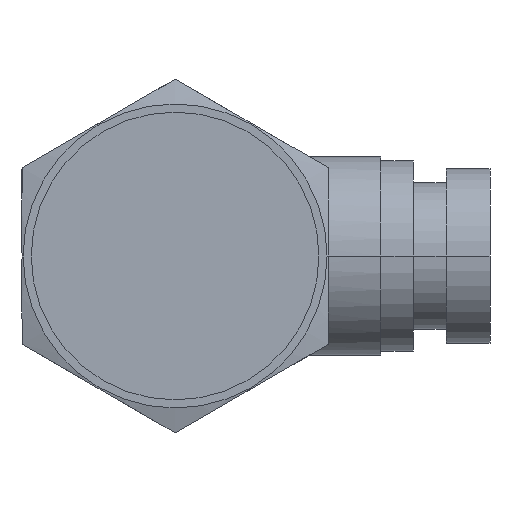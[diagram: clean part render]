
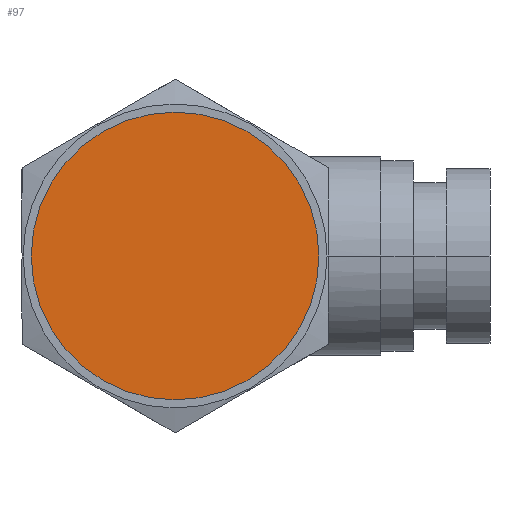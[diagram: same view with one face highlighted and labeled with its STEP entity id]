
A CAD part, front view. The second image highlights one B-rep face of the part: STEP entity #97.
In plain terms, the highlighted planar face has unit normal (0, -1, 0).
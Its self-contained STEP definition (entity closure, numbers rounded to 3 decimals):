
#97 = ADVANCED_FACE( '', ( #172 ), #173, .T. );
#172 = FACE_OUTER_BOUND( '', #283, .T. );
#173 = PLANE( '', #284 );
#283 = EDGE_LOOP( '', ( #522, #523 ) );
#284 = AXIS2_PLACEMENT_3D( '', #524, #525, #526 );
#522 = ORIENTED_EDGE( '', *, *, #794, .F. );
#523 = ORIENTED_EDGE( '', *, *, #835, .F. );
#524 = CARTESIAN_POINT( '', ( 3.289, -4.75, 0. ) );
#525 = DIRECTION( '', ( 0., -1., 0. ) );
#526 = DIRECTION( '', ( -1., 0., 0. ) );
#794 = EDGE_CURVE( '', #956, #959, #960, .T. );
#835 = EDGE_CURVE( '', #959, #956, #1026, .T. );
#956 = VERTEX_POINT( '', #1256 );
#959 = VERTEX_POINT( '', #1260 );
#960 = CIRCLE( '', #1261, 6.579 );
#1026 = CIRCLE( '', #1471, 6.579 );
#1256 = CARTESIAN_POINT( '', ( 6.579, -4.75, 0. ) );
#1260 = CARTESIAN_POINT( '', ( -6.579, -4.75, 0. ) );
#1261 = AXIS2_PLACEMENT_3D( '', #1627, #1628, #1629 );
#1471 = AXIS2_PLACEMENT_3D( '', #1678, #1679, #1680 );
#1627 = CARTESIAN_POINT( '', ( 0., -4.75, 0. ) );
#1628 = DIRECTION( '', ( 0., 1., 0. ) );
#1629 = DIRECTION( '', ( 1., 0., 0. ) );
#1678 = CARTESIAN_POINT( '', ( 0., -4.75, 0. ) );
#1679 = DIRECTION( '', ( 0., 1., 0. ) );
#1680 = DIRECTION( '', ( 1., 0., 0. ) );
